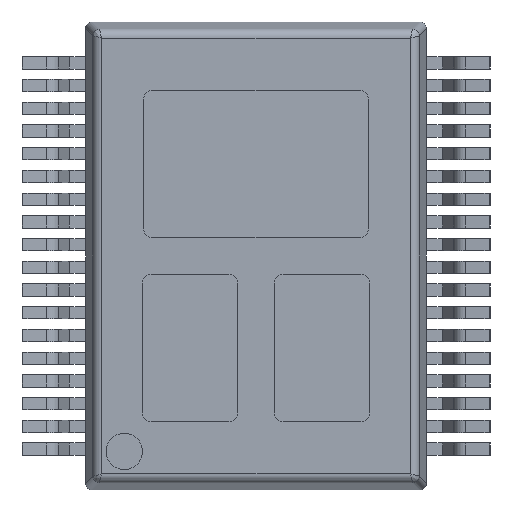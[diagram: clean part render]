
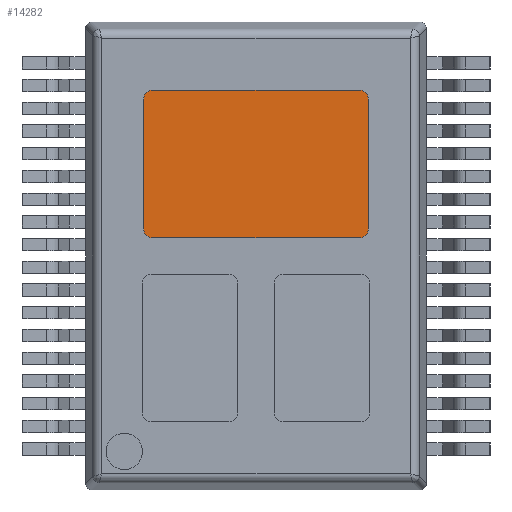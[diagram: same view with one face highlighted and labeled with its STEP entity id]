
A CAD part, front view. The second image highlights one B-rep face of the part: STEP entity #14282.
In plain terms, the highlighted planar face has unit normal (0, -1, 0).
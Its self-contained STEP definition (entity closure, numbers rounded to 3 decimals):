
#174 = CARTESIAN_POINT ( 'NONE',  ( 2.275, 0.1, 0.6 ) ) ;
#841 = DIRECTION ( 'NONE',  ( 0., -1., 0. ) ) ;
#1248 = VERTEX_POINT ( 'NONE', #5153 ) ;
#1867 = DIRECTION ( 'NONE',  ( 0., 0., 1. ) ) ;
#1932 = CARTESIAN_POINT ( 'NONE',  ( -2.475, 0.1, 3.45 ) ) ;
#2053 = CARTESIAN_POINT ( 'NONE',  ( 2.275, 0.1, 0.4 ) ) ;
#2298 = CARTESIAN_POINT ( 'NONE',  ( -2.275, 0.1, 3.65 ) ) ;
#2692 = LINE ( 'NONE', #5761, #9281 ) ;
#2774 = CARTESIAN_POINT ( 'NONE',  ( -2.275, 0.1, 0.4 ) ) ;
#2930 = AXIS2_PLACEMENT_3D ( 'NONE', #174, #9396, #10833 ) ;
#2973 = CARTESIAN_POINT ( 'NONE',  ( -2.475, 0.1, 0.6 ) ) ;
#3329 = CARTESIAN_POINT ( 'NONE',  ( -2.275, 0.1, 3.65 ) ) ;
#3690 = DIRECTION ( 'NONE',  ( -1., 0., 0. ) ) ;
#3707 = EDGE_CURVE ( 'NONE', #4800, #18823, #5376, .T. ) ;
#3729 = DIRECTION ( 'NONE',  ( 0., 0., 1. ) ) ;
#3863 = DIRECTION ( 'NONE',  ( 0., 0., -1. ) ) ;
#4372 = VERTEX_POINT ( 'NONE', #2973 ) ;
#4664 = ORIENTED_EDGE ( 'NONE', *, *, #16360, .T. ) ;
#4800 = VERTEX_POINT ( 'NONE', #13911 ) ;
#4848 = VECTOR ( 'NONE', #3690, 1000. ) ;
#5153 = CARTESIAN_POINT ( 'NONE',  ( -2.475, 0.1, 3.45 ) ) ;
#5210 = CIRCLE ( 'NONE', #2930, 0.2 ) ;
#5237 = CARTESIAN_POINT ( 'NONE',  ( 2.275, 0.1, 3.65 ) ) ;
#5320 = ORIENTED_EDGE ( 'NONE', *, *, #7596, .T. ) ;
#5374 = CARTESIAN_POINT ( 'NONE',  ( -2.275, 0.1, 3.45 ) ) ;
#5376 = LINE ( 'NONE', #18413, #5588 ) ;
#5385 = DIRECTION ( 'NONE',  ( 0., 0., -1. ) ) ;
#5588 = VECTOR ( 'NONE', #1867, 1000. ) ;
#5664 = AXIS2_PLACEMENT_3D ( 'NONE', #5374, #12119, #18168 ) ;
#5761 = CARTESIAN_POINT ( 'NONE',  ( -2.275, 0.1, 0.4 ) ) ;
#5799 = AXIS2_PLACEMENT_3D ( 'NONE', #11328, #841, #5385 ) ;
#5939 = CIRCLE ( 'NONE', #16452, 0.2 ) ;
#6058 = EDGE_CURVE ( 'NONE', #9328, #14648, #2692, .T. ) ;
#7596 = EDGE_CURVE ( 'NONE', #4372, #9328, #13372, .T. ) ;
#7895 = ORIENTED_EDGE ( 'NONE', *, *, #3707, .T. ) ;
#7897 = LINE ( 'NONE', #1932, #14360 ) ;
#7949 = EDGE_CURVE ( 'NONE', #1248, #4372, #7897, .T. ) ;
#8346 = ORIENTED_EDGE ( 'NONE', *, *, #7949, .T. ) ;
#8887 = CIRCLE ( 'NONE', #17174, 0.2 ) ;
#9281 = VECTOR ( 'NONE', #13048, 1000. ) ;
#9328 = VERTEX_POINT ( 'NONE', #2774 ) ;
#9396 = DIRECTION ( 'NONE',  ( 0., -1., 0. ) ) ;
#9457 = EDGE_CURVE ( 'NONE', #17373, #11515, #11225, .T. ) ;
#9899 = ORIENTED_EDGE ( 'NONE', *, *, #6058, .T. ) ;
#10614 = EDGE_CURVE ( 'NONE', #18823, #17373, #8887, .T. ) ;
#10833 = DIRECTION ( 'NONE',  ( 0., 0., -1. ) ) ;
#11008 = CARTESIAN_POINT ( 'NONE',  ( 2.275, 0.1, 3.45 ) ) ;
#11066 = ORIENTED_EDGE ( 'NONE', *, *, #9457, .T. ) ;
#11225 = LINE ( 'NONE', #2298, #4848 ) ;
#11231 = EDGE_CURVE ( 'NONE', #14648, #4800, #5210, .T. ) ;
#11328 = CARTESIAN_POINT ( 'NONE',  ( -2.275, 0.1, 0.6 ) ) ;
#11515 = VERTEX_POINT ( 'NONE', #3329 ) ;
#11811 = DIRECTION ( 'NONE',  ( 0., 0., -1. ) ) ;
#11919 = ORIENTED_EDGE ( 'NONE', *, *, #11231, .T. ) ;
#12119 = DIRECTION ( 'NONE',  ( 0., -1., 0. ) ) ;
#12520 = EDGE_LOOP ( 'NONE', ( #4664, #8346, #5320, #9899, #11919, #7895, #15499, #11066 ) ) ;
#13048 = DIRECTION ( 'NONE',  ( 1., 0., 0. ) ) ;
#13289 = FACE_OUTER_BOUND ( 'NONE', #12520, .T. ) ;
#13372 = CIRCLE ( 'NONE', #5799, 0.2 ) ;
#13820 = CARTESIAN_POINT ( 'NONE',  ( -2.275, 0.1, 3.45 ) ) ;
#13911 = CARTESIAN_POINT ( 'NONE',  ( 2.475, 0.1, 0.6 ) ) ;
#14282 = ADVANCED_FACE ( 'NONE', ( #13289 ), #15633, .T. ) ;
#14360 = VECTOR ( 'NONE', #3863, 1000. ) ;
#14648 = VERTEX_POINT ( 'NONE', #2053 ) ;
#15499 = ORIENTED_EDGE ( 'NONE', *, *, #10614, .T. ) ;
#15633 = PLANE ( 'NONE',  #5664 ) ;
#16360 = EDGE_CURVE ( 'NONE', #11515, #1248, #5939, .T. ) ;
#16452 = AXIS2_PLACEMENT_3D ( 'NONE', #13820, #17839, #11811 ) ;
#17041 = DIRECTION ( 'NONE',  ( 0., -1., 0. ) ) ;
#17174 = AXIS2_PLACEMENT_3D ( 'NONE', #11008, #17041, #3729 ) ;
#17373 = VERTEX_POINT ( 'NONE', #5237 ) ;
#17745 = CARTESIAN_POINT ( 'NONE',  ( 2.475, 0.1, 3.45 ) ) ;
#17839 = DIRECTION ( 'NONE',  ( 0., -1., 0. ) ) ;
#18168 = DIRECTION ( 'NONE',  ( 0., 0., -1. ) ) ;
#18413 = CARTESIAN_POINT ( 'NONE',  ( 2.475, 0.1, 3.45 ) ) ;
#18823 = VERTEX_POINT ( 'NONE', #17745 ) ;
